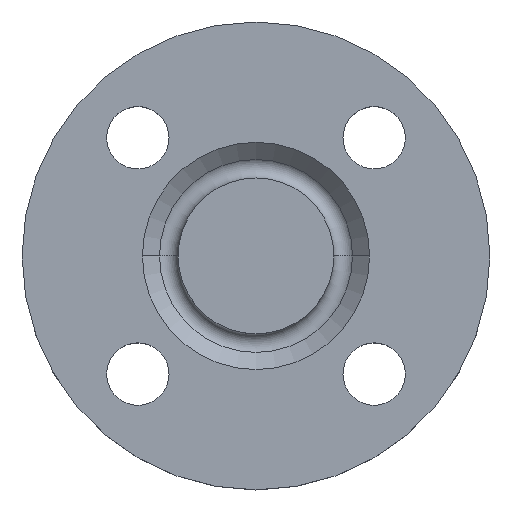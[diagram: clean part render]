
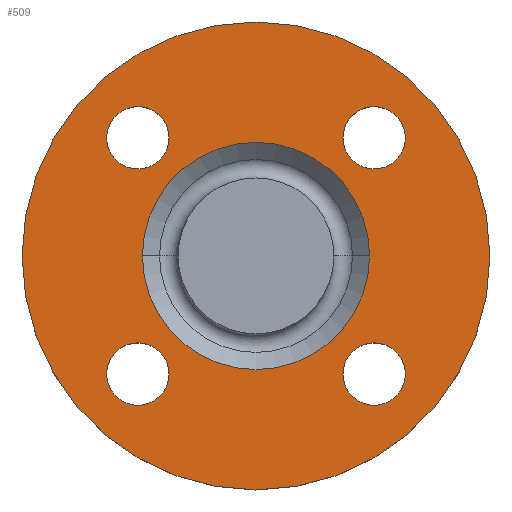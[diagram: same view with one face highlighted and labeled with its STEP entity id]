
A CAD part, top view. The second image highlights one B-rep face of the part: STEP entity #509.
In plain terms, the highlighted planar face has unit normal (0, 0, 1).
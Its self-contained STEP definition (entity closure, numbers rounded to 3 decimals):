
#3 = VERTEX_POINT ( 'NONE', #227 ) ;
#5 = EDGE_LOOP ( 'NONE', ( #141, #145 ) ) ;
#9 = ORIENTED_EDGE ( 'NONE', *, *, #521, .F. ) ;
#11 = EDGE_LOOP ( 'NONE', ( #153, #159 ) ) ;
#14 = VERTEX_POINT ( 'NONE', #437 ) ;
#16 = CIRCLE ( 'NONE', #462, 7. ) ;
#18 = EDGE_LOOP ( 'NONE', ( #148, #152 ) ) ;
#21 = EDGE_LOOP ( 'NONE', ( #137, #138 ) ) ;
#34 = VERTEX_POINT ( 'NONE', #760 ) ;
#42 = DIRECTION ( 'NONE',  ( 0., 0., -1. ) ) ;
#48 = DIRECTION ( 'NONE',  ( 1., 0., 0. ) ) ;
#52 = CIRCLE ( 'NONE', #327, 7. ) ;
#53 = DIRECTION ( 'NONE',  ( 1., 0., 0. ) ) ;
#57 = VERTEX_POINT ( 'NONE', #599 ) ;
#91 = CARTESIAN_POINT ( 'NONE',  ( 0., 0., -2. ) ) ;
#107 = AXIS2_PLACEMENT_3D ( 'NONE', #455, #778, #246 ) ;
#137 = ORIENTED_EDGE ( 'NONE', *, *, #836, .T. ) ;
#138 = ORIENTED_EDGE ( 'NONE', *, *, #818, .T. ) ;
#139 = ORIENTED_EDGE ( 'NONE', *, *, #464, .T. ) ;
#140 = ORIENTED_EDGE ( 'NONE', *, *, #683, .T. ) ;
#141 = ORIENTED_EDGE ( 'NONE', *, *, #787, .T. ) ;
#144 = AXIS2_PLACEMENT_3D ( 'NONE', #594, #42, #615 ) ;
#145 = ORIENTED_EDGE ( 'NONE', *, *, #536, .T. ) ;
#148 = ORIENTED_EDGE ( 'NONE', *, *, #516, .T. ) ;
#151 = EDGE_LOOP ( 'NONE', ( #155, #9 ) ) ;
#152 = ORIENTED_EDGE ( 'NONE', *, *, #163, .T. ) ;
#153 = ORIENTED_EDGE ( 'NONE', *, *, #770, .T. ) ;
#155 = ORIENTED_EDGE ( 'NONE', *, *, #587, .F. ) ;
#159 = ORIENTED_EDGE ( 'NONE', *, *, #639, .T. ) ;
#163 = EDGE_CURVE ( 'NONE', #57, #194, #16, .T. ) ;
#167 = VERTEX_POINT ( 'NONE', #436 ) ;
#173 = CARTESIAN_POINT ( 'NONE',  ( -26.517, 26.517, -2. ) ) ;
#175 = EDGE_LOOP ( 'NONE', ( #139, #140 ) ) ;
#183 = CIRCLE ( 'NONE', #518, 52.5 ) ;
#194 = VERTEX_POINT ( 'NONE', #771 ) ;
#195 = VERTEX_POINT ( 'NONE', #329 ) ;
#198 = VERTEX_POINT ( 'NONE', #624 ) ;
#212 = VERTEX_POINT ( 'NONE', #824 ) ;
#227 = CARTESIAN_POINT ( 'NONE',  ( -33.517, -26.517, -2. ) ) ;
#246 = DIRECTION ( 'NONE',  ( -1., 0., 0. ) ) ;
#250 = CARTESIAN_POINT ( 'NONE',  ( 26.517, -26.517, -2. ) ) ;
#252 = CARTESIAN_POINT ( 'NONE',  ( 0., 0., -2. ) ) ;
#262 = AXIS2_PLACEMENT_3D ( 'NONE', #252, #289, #638 ) ;
#263 = AXIS2_PLACEMENT_3D ( 'NONE', #250, #340, #460 ) ;
#273 = DIRECTION ( 'NONE',  ( 1., 0., 0. ) ) ;
#276 = AXIS2_PLACEMENT_3D ( 'NONE', #405, #848, #789 ) ;
#284 = CARTESIAN_POINT ( 'NONE',  ( 0., 0., -2. ) ) ;
#285 = FACE_BOUND ( 'NONE', #175, .T. ) ;
#286 = CARTESIAN_POINT ( 'NONE',  ( -25.5, 0., -2. ) ) ;
#287 = CIRCLE ( 'NONE', #144, 7. ) ;
#288 = DIRECTION ( 'NONE',  ( 0., 0., -1. ) ) ;
#289 = DIRECTION ( 'NONE',  ( 0., 0., -1. ) ) ;
#292 = DIRECTION ( 'NONE',  ( 0., 0., -1. ) ) ;
#327 = AXIS2_PLACEMENT_3D ( 'NONE', #650, #394, #53 ) ;
#329 = CARTESIAN_POINT ( 'NONE',  ( -52.5, 0., -2. ) ) ;
#336 = CARTESIAN_POINT ( 'NONE',  ( 33.517, -26.517, -2. ) ) ;
#340 = DIRECTION ( 'NONE',  ( 0., 0., -1. ) ) ;
#394 = DIRECTION ( 'NONE',  ( 0., 0., -1. ) ) ;
#398 = DIRECTION ( 'NONE',  ( 1., 0., 0. ) ) ;
#404 = VERTEX_POINT ( 'NONE', #336 ) ;
#405 = CARTESIAN_POINT ( 'NONE',  ( -26.517, 26.517, -2. ) ) ;
#410 = CARTESIAN_POINT ( 'NONE',  ( 26.517, -26.517, -2. ) ) ;
#416 = AXIS2_PLACEMENT_3D ( 'NONE', #593, #506, #512 ) ;
#418 = AXIS2_PLACEMENT_3D ( 'NONE', #463, #292, #445 ) ;
#426 = FACE_BOUND ( 'NONE', #18, .T. ) ;
#436 = CARTESIAN_POINT ( 'NONE',  ( 19.517, -26.517, -2. ) ) ;
#437 = CARTESIAN_POINT ( 'NONE',  ( -19.517, -26.517, -2. ) ) ;
#445 = DIRECTION ( 'NONE',  ( 1., 0., 0. ) ) ;
#455 = CARTESIAN_POINT ( 'NONE',  ( 0., 0., -2. ) ) ;
#459 = AXIS2_PLACEMENT_3D ( 'NONE', #91, #629, #541 ) ;
#460 = DIRECTION ( 'NONE',  ( 1., 0., 0. ) ) ;
#462 = AXIS2_PLACEMENT_3D ( 'NONE', #813, #758, #48 ) ;
#463 = CARTESIAN_POINT ( 'NONE',  ( -26.517, -26.517, -2. ) ) ;
#464 = EDGE_CURVE ( 'NONE', #14, #3, #582, .T. ) ;
#468 = AXIS2_PLACEMENT_3D ( 'NONE', #173, #656, #273 ) ;
#480 = FACE_BOUND ( 'NONE', #5, .T. ) ;
#499 = PLANE ( 'NONE',  #416 ) ;
#506 = DIRECTION ( 'NONE',  ( 0., 0., 1. ) ) ;
#509 = ADVANCED_FACE ( 'NONE', ( #833, #285, #480, #426, #626, #847 ), #499, .T. ) ;
#512 = DIRECTION ( 'NONE',  ( 1., 0., 0. ) ) ;
#516 = EDGE_CURVE ( 'NONE', #194, #57, #52, .T. ) ;
#518 = AXIS2_PLACEMENT_3D ( 'NONE', #284, #288, #561 ) ;
#521 = EDGE_CURVE ( 'NONE', #195, #34, #735, .T. ) ;
#536 = EDGE_CURVE ( 'NONE', #719, #198, #562, .T. ) ;
#541 = DIRECTION ( 'NONE',  ( -1., 0., 0. ) ) ;
#561 = DIRECTION ( 'NONE',  ( -1., 0., 0. ) ) ;
#562 = CIRCLE ( 'NONE', #468, 7. ) ;
#575 = CIRCLE ( 'NONE', #262, 25.5 ) ;
#576 = CIRCLE ( 'NONE', #263, 7. ) ;
#581 = CIRCLE ( 'NONE', #276, 7. ) ;
#582 = CIRCLE ( 'NONE', #418, 7. ) ;
#587 = EDGE_CURVE ( 'NONE', #34, #195, #183, .T. ) ;
#593 = CARTESIAN_POINT ( 'NONE',  ( 52.5, 0., -2. ) ) ;
#594 = CARTESIAN_POINT ( 'NONE',  ( -26.517, -26.517, -2. ) ) ;
#599 = CARTESIAN_POINT ( 'NONE',  ( 19.517, 26.517, -2. ) ) ;
#615 = DIRECTION ( 'NONE',  ( 1., 0., 0. ) ) ;
#624 = CARTESIAN_POINT ( 'NONE',  ( -19.517, 26.517, -2. ) ) ;
#626 = FACE_BOUND ( 'NONE', #11, .T. ) ;
#629 = DIRECTION ( 'NONE',  ( 0., 0., -1. ) ) ;
#638 = DIRECTION ( 'NONE',  ( -1., 0., 0. ) ) ;
#639 = EDGE_CURVE ( 'NONE', #757, #212, #575, .T. ) ;
#641 = AXIS2_PLACEMENT_3D ( 'NONE', #410, #791, #398 ) ;
#650 = CARTESIAN_POINT ( 'NONE',  ( 26.517, 26.517, -2. ) ) ;
#656 = DIRECTION ( 'NONE',  ( 0., 0., -1. ) ) ;
#683 = EDGE_CURVE ( 'NONE', #3, #14, #287, .T. ) ;
#707 = CIRCLE ( 'NONE', #107, 25.5 ) ;
#714 = CARTESIAN_POINT ( 'NONE',  ( -33.517, 26.517, -2. ) ) ;
#719 = VERTEX_POINT ( 'NONE', #714 ) ;
#734 = CIRCLE ( 'NONE', #641, 7. ) ;
#735 = CIRCLE ( 'NONE', #459, 52.5 ) ;
#757 = VERTEX_POINT ( 'NONE', #286 ) ;
#758 = DIRECTION ( 'NONE',  ( 0., 0., -1. ) ) ;
#760 = CARTESIAN_POINT ( 'NONE',  ( 52.5, 0., -2. ) ) ;
#770 = EDGE_CURVE ( 'NONE', #212, #757, #707, .T. ) ;
#771 = CARTESIAN_POINT ( 'NONE',  ( 33.517, 26.517, -2. ) ) ;
#778 = DIRECTION ( 'NONE',  ( 0., 0., -1. ) ) ;
#787 = EDGE_CURVE ( 'NONE', #198, #719, #581, .T. ) ;
#789 = DIRECTION ( 'NONE',  ( 1., 0., 0. ) ) ;
#791 = DIRECTION ( 'NONE',  ( 0., 0., -1. ) ) ;
#813 = CARTESIAN_POINT ( 'NONE',  ( 26.517, 26.517, -2. ) ) ;
#818 = EDGE_CURVE ( 'NONE', #167, #404, #576, .T. ) ;
#824 = CARTESIAN_POINT ( 'NONE',  ( 25.5, 0., -2. ) ) ;
#833 = FACE_BOUND ( 'NONE', #21, .T. ) ;
#836 = EDGE_CURVE ( 'NONE', #404, #167, #734, .T. ) ;
#847 = FACE_OUTER_BOUND ( 'NONE', #151, .T. ) ;
#848 = DIRECTION ( 'NONE',  ( 0., 0., -1. ) ) ;
